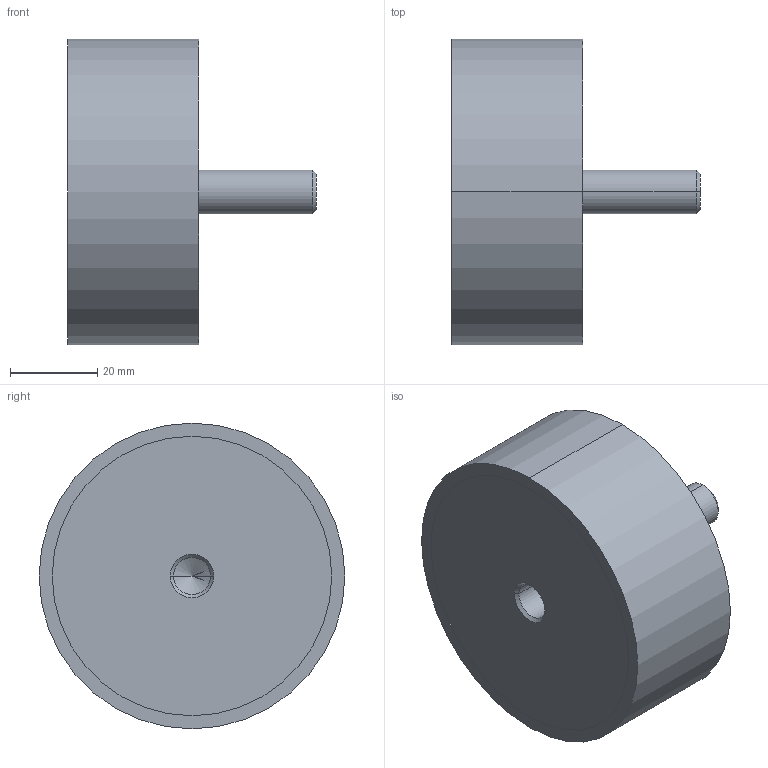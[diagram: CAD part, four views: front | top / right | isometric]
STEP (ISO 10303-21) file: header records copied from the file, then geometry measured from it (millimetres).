
FILE_DESCRIPTION (( 'STEP AP214' ), '1' );
FILE_NAME ('351-70-30-M10-ES-55.step', '2025-07-23T09:51:20', ( '' ), ( '' ), 'SwSTEP 2.0', 'SolidWorks 2022', '' );
FILE_SCHEMA (( 'AUTOMOTIVE_DESIGN' ));
Length unit declared in the file: millimetre
Products named in the file (1): 351-70-30-M10-ES-55
Bounding box: 57 x 70 x 70 mm (x, y, z)
Volume: 116810.1 mm3; surface area: 15424.2 mm2
Topology: 1 solids, 1 shells, 24 faces, 48 edges, 29 vertices
Faces by surface type: cylinder 12, cone 6, plane 6
Entity records: 740 total; most frequent: DIRECTION 124, CARTESIAN_POINT 100, ORIENTED_EDGE 92, AXIS2_PLACEMENT_3D 53, EDGE_CURVE 46, VERTEX_POINT 29, EDGE_LOOP 29, CIRCLE 28
